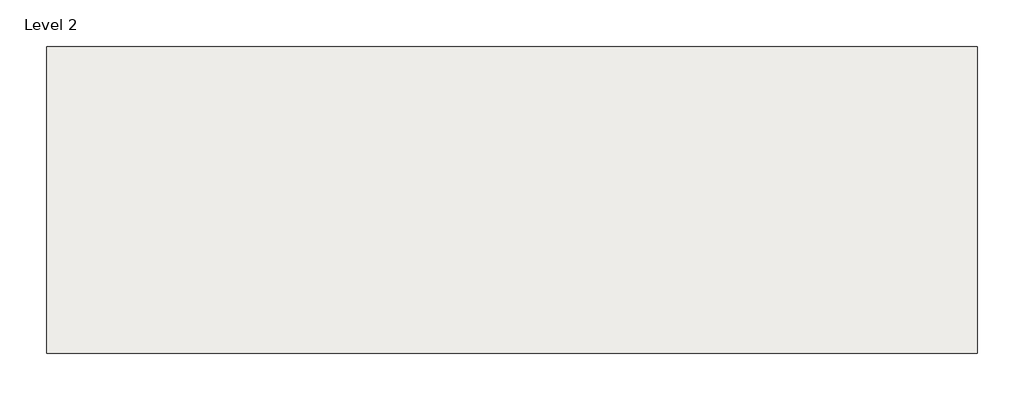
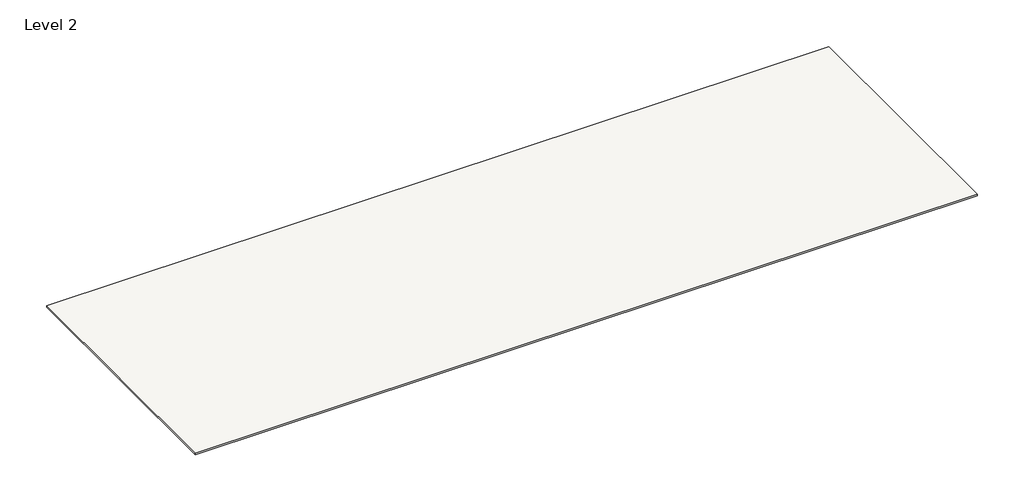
# One storey: 1 covering.
"""IFC4 building model written with IfcOpenShell, lengths in millimetres."""

from ifc_helpers import new_model, si_unit, frame, origin, place, context, project, spatial, polyline, outline, extrude, element, save

model = new_model("IFC4")

# Units and contexts
model_context = context("Model", 3, world=origin())
ifc_project = project(units=[si_unit("LENGTHUNIT", "METRE", prefix="MILLI")], contexts=[model_context])

# Site, building, storey
site = spatial("IfcSite", under=ifc_project)
building = spatial("IfcBuilding", under=site)
storey = spatial("IfcBuildingStorey", under=building, Name="Level 2", Elevation=7000.0)

# Covering
placement = place(None, origin())
element("IfcCovering", 1, ObjectType="GWB on Mtl Stud", at=placement, inside=storey, context=model_context, shape_type="SweptSolid", body=[
    extrude(outline(polyline([(11796.4282529, 0.0), (11796.4282529, -8900.0), (-15203.5717471, -8900.0), (-15203.5717471, 0.0), (11796.4282529, 0.0)])), frame((0.0, 0.0, 7000.0), z_axis=(0.0, 0.0, 1.0), x_axis=(1.0, 0.0, 0.0)), (0.0, 0.0, 1.0), 57.0),
])

save(model, "model.ifc")
